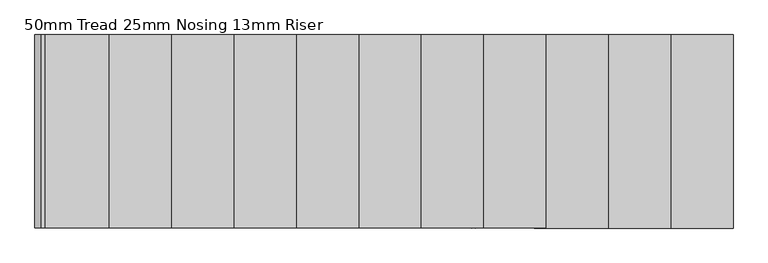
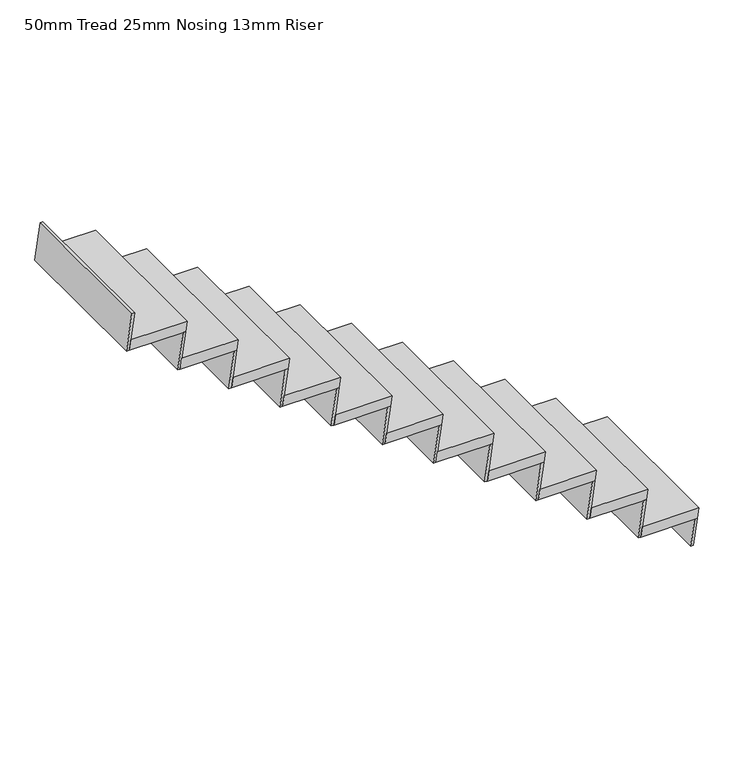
"""IFC4 building model written with IfcOpenShell, lengths in millimetres: stair flight geometry, 50mm Tread 25mm Nosing 13mm Riser."""

from ifc_helpers import new_model, si_unit, frame, origin, place, context, project, spatial, polyline, outline, extrude, source, transform, mapped, element, save


def stair_flight_50mm_tread_25mm_nosing_13mm_riser_cdc1af9a(model_context):
    return source(origin(), model_context, "Body", "SweptSolid", [
        extrude(outline(polyline([(939.8, 3301.7294053), (939.8, 3035.0411705), (889.8, 3028.0107993), (889.8, 3294.6990341), (939.8, 3301.7294053)])), frame((0.0, 2406.0038353, 0.0), z_axis=(0.0, 1.0, 0.0), x_axis=(0.0, 0.0, 1.0)), (0.0, 0.0, 1.0), 749.3),
        extrude(outline(polyline([(889.8, 3294.6990341), (889.8, 3282.0760735), (762.0, 3264.1064447), (762.0, 3276.7294053), (889.8, 3294.6990341)])), frame((0.0, 2406.0038353, 0.0), z_axis=(0.0, 1.0, 0.0), x_axis=(0.0, 0.0, 1.0)), (0.0, 0.0, 1.0), 749.3),
        extrude(outline(polyline([(1067.6, 3053.0107993), (1067.6, 3040.3878388), (889.8, 3015.3878388), (889.8, 3028.0107993), (1067.6, 3053.0107993)])), frame((0.0, 2406.0038353, 0.0), z_axis=(0.0, 1.0, 0.0), x_axis=(0.0, 0.0, 1.0)), (0.0, 0.0, 1.0), 749.3),
        extrude(outline(polyline([(1117.6, 3060.0411705), (1117.6, 2793.3529357), (1067.6, 2786.3225645), (1067.6, 3053.0107993), (1117.6, 3060.0411705)])), frame((0.0, 2406.0038353, 0.0), z_axis=(0.0, 1.0, 0.0), x_axis=(0.0, 0.0, 1.0)), (0.0, 0.0, 1.0), 749.3),
        extrude(outline(polyline([(1245.4, 2811.3225645), (1245.4, 2798.699604), (1067.6, 2773.699604), (1067.6, 2786.3225645), (1245.4, 2811.3225645)])), frame((0.0, 2406.0038353, 0.0), z_axis=(0.0, 1.0, 0.0), x_axis=(0.0, 0.0, 1.0)), (0.0, 0.0, 1.0), 749.3),
        extrude(outline(polyline([(1295.4, 2818.3529357), (1295.4, 2551.6647009), (1245.4, 2544.6343297), (1245.4, 2811.3225645), (1295.4, 2818.3529357)])), frame((0.0, 2406.0038353, 0.0), z_axis=(0.0, 1.0, 0.0), x_axis=(0.0, 0.0, 1.0)), (0.0, 0.0, 1.0), 749.3),
        extrude(outline(polyline([(1423.2, 2569.6343297), (1423.2, 2557.0113692), (1245.4, 2532.0113692), (1245.4, 2544.6343297), (1423.2, 2569.6343297)])), frame((0.0, 2406.0038353, 0.0), z_axis=(0.0, 1.0, 0.0), x_axis=(0.0, 0.0, 1.0)), (0.0, 0.0, 1.0), 749.3),
        extrude(outline(polyline([(1473.2, 2576.6647009), (1473.2, 2309.9764662), (1423.2, 2302.9460949), (1423.2, 2569.6343297), (1473.2, 2576.6647009)])), frame((0.0, 2406.0038353, 0.0), z_axis=(0.0, 1.0, 0.0), x_axis=(0.0, 0.0, 1.0)), (0.0, 0.0, 1.0), 749.3),
        extrude(outline(polyline([(1601.0, 2327.9460949), (1601.0, 2315.3231344), (1423.2, 2290.3231344), (1423.2, 2302.9460949), (1601.0, 2327.9460949)])), frame((0.0, 2406.0038353, 0.0), z_axis=(0.0, 1.0, 0.0), x_axis=(0.0, 0.0, 1.0)), (0.0, 0.0, 1.0), 749.3),
        extrude(outline(polyline([(1651.0, 2334.9764662), (1651.0, 2068.2882314), (1601.0, 2061.2578602), (1601.0, 2327.9460949), (1651.0, 2334.9764662)])), frame((0.0, 2406.0038353, 0.0), z_axis=(0.0, 1.0, 0.0), x_axis=(0.0, 0.0, 1.0)), (0.0, 0.0, 1.0), 749.3),
        extrude(outline(polyline([(1778.8, 2086.2578602), (1778.8, 2073.6348996), (1601.0, 2048.6348996), (1601.0, 2061.2578602), (1778.8, 2086.2578602)])), frame((0.0, 2406.0038353, 0.0), z_axis=(0.0, 1.0, 0.0), x_axis=(0.0, 0.0, 1.0)), (0.0, 0.0, 1.0), 749.3),
        extrude(outline(polyline([(1828.8, 2093.2882314), (1828.8, 1826.5999966), (1778.8, 1819.5696254), (1778.8, 2086.2578602), (1828.8, 2093.2882314)])), frame((0.0, 2406.0038353, 0.0), z_axis=(0.0, 1.0, 0.0), x_axis=(0.0, 0.0, 1.0)), (0.0, 0.0, 1.0), 749.3),
        extrude(outline(polyline([(1956.6, 1844.5696254), (1956.6, 1831.9466649), (1778.8, 1806.9466649), (1778.8, 1819.5696254), (1956.6, 1844.5696254)])), frame((0.0, 2406.0038353, 0.0), z_axis=(0.0, 1.0, 0.0), x_axis=(0.0, 0.0, 1.0)), (0.0, 0.0, 1.0), 749.3),
        extrude(outline(polyline([(2006.6, 1851.5999966), (2006.6, 1584.9117618), (1956.6, 1577.8813906), (1956.6, 1844.5696254), (2006.6, 1851.5999966)])), frame((0.0, 2406.0038353, 0.0), z_axis=(0.0, 1.0, 0.0), x_axis=(0.0, 0.0, 1.0)), (0.0, 0.0, 1.0), 749.3),
        extrude(outline(polyline([(2134.4, 1602.8813906), (2134.4, 1590.2584301), (1956.6, 1565.2584301), (1956.6, 1577.8813906), (2134.4, 1602.8813906)])), frame((0.0, 2406.0038353, 0.0), z_axis=(0.0, 1.0, 0.0), x_axis=(0.0, 0.0, 1.0)), (0.0, 0.0, 1.0), 749.3),
        extrude(outline(polyline([(2184.4, 1609.9117618), (2184.4, 1343.223527), (2134.4, 1336.1931558), (2134.4, 1602.8813906), (2184.4, 1609.9117618)])), frame((0.0, 2406.0038353, 0.0), z_axis=(0.0, 1.0, 0.0), x_axis=(0.0, 0.0, 1.0)), (0.0, 0.0, 1.0), 749.3),
        extrude(outline(polyline([(2312.2, 1361.1931558), (2312.2, 1348.5701953), (2134.4, 1323.5701953), (2134.4, 1336.1931558), (2312.2, 1361.1931558)])), frame((0.0, 2406.0038353, 0.0), z_axis=(0.0, 1.0, 0.0), x_axis=(0.0, 0.0, 1.0)), (0.0, 0.0, 1.0), 749.3),
        extrude(outline(polyline([(2362.2, 1368.223527), (2362.2, 1101.5352923), (2312.2, 1094.5049211), (2312.2, 1361.1931558), (2362.2, 1368.223527)])), frame((0.0, 2406.0038353, 0.0), z_axis=(0.0, 1.0, 0.0), x_axis=(0.0, 0.0, 1.0)), (0.0, 0.0, 1.0), 749.3),
        extrude(outline(polyline([(2490.0, 1119.5049211), (2490.0, 1106.8819605), (2312.2, 1081.8819605), (2312.2, 1094.5049211), (2490.0, 1119.5049211)])), frame((0.0, 2406.0038353, 0.0), z_axis=(0.0, 1.0, 0.0), x_axis=(0.0, 0.0, 1.0)), (0.0, 0.0, 1.0), 749.3),
        extrude(outline(polyline([(2540.0, 1126.5352923), (2540.0, 859.8470575), (2490.0, 852.8166863), (2490.0, 1119.5049211), (2540.0, 1126.5352923)])), frame((0.0, 2406.0038353, 0.0), z_axis=(0.0, 1.0, 0.0), x_axis=(0.0, 0.0, 1.0)), (0.0, 0.0, 1.0), 749.3),
        extrude(outline(polyline([(2667.8, 877.8166863), (2667.8, 865.1937258), (2490.0, 840.1937258), (2490.0, 852.8166863), (2667.8, 877.8166863)])), frame((0.0, 2406.0038353, 0.0), z_axis=(0.0, 1.0, 0.0), x_axis=(0.0, 0.0, 1.0)), (0.0, 0.0, 1.0), 749.3),
        extrude(outline(polyline([(2845.6, 636.1284515), (2845.6, 623.505491), (2667.8, 598.505491), (2667.8, 611.1284515), (2845.6, 636.1284515)])), frame((0.0, 2406.0038353, 0.0), z_axis=(0.0, 1.0, 0.0), x_axis=(0.0, 0.0, 1.0)), (0.0, 0.0, 1.0), 749.3),
        extrude(outline(polyline([(2717.8, 884.8470575), (2717.8, 618.1588227), (2667.8, 611.1284515), (2667.8, 877.8166863), (2717.8, 884.8470575)])), frame((0.0, 2406.0038353, 0.0), z_axis=(0.0, 1.0, 0.0), x_axis=(0.0, 0.0, 1.0)), (0.0, 0.0, 1.0), 749.3),
    ])


if __name__ == "__main__":
    model = new_model("IFC4")
    model_context = context("Model", 3, world=origin())
    ifc_project = project(units=[si_unit("LENGTHUNIT", "METRE", prefix="MILLI")], contexts=[model_context])
    site = spatial("IfcSite", under=ifc_project)
    building = spatial("IfcBuilding", under=site)
    placement = place(None, origin())
    stair_flight_50mm_tread_25mm_nosing_13mm_riser_shape = stair_flight_50mm_tread_25mm_nosing_13mm_riser_cdc1af9a(model_context)
    element("IfcStairFlight", 1, ObjectType="50mm Tread 25mm Nosing 13mm Riser", at=placement, inside=building, context=model_context, shape_type="MappedRepresentation", body=[
        mapped(stair_flight_50mm_tread_25mm_nosing_13mm_riser_shape, transform((0.0, 0.0, 0.0), x_axis=(1.0, 0.0, 0.0), y_axis=(0.0, 1.0, 0.0), z_axis=(0.0, 0.0, 1.0))),
    ])
    save(model, "model.ifc")
